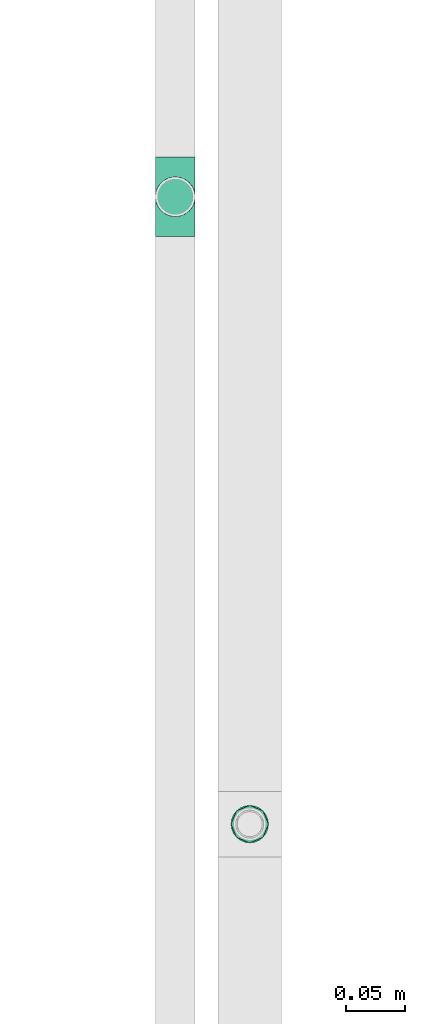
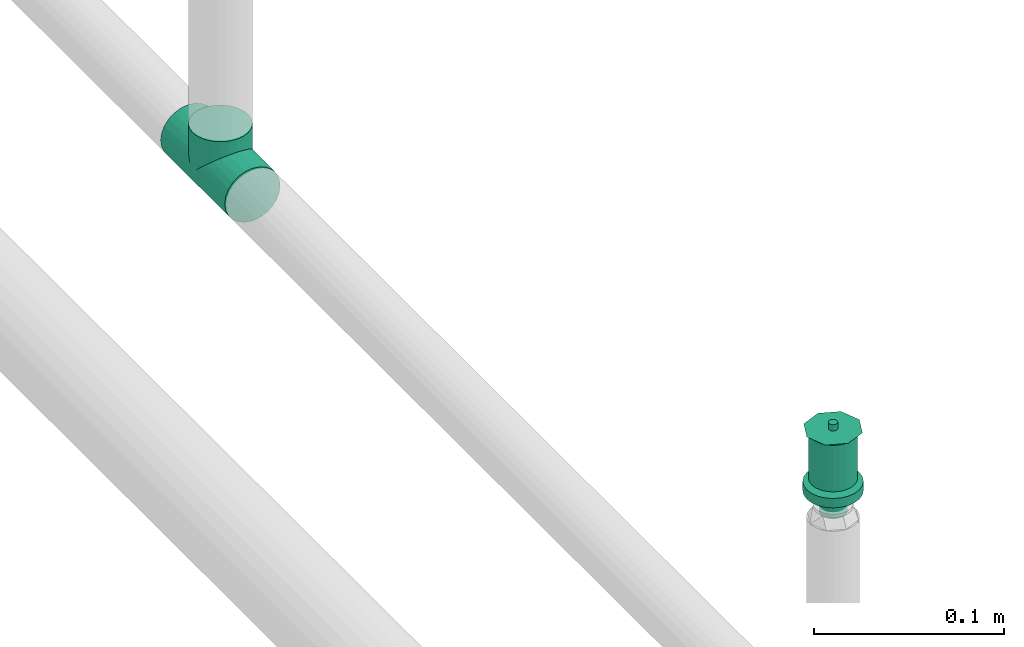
# One storey, part 55 of 95: 1 flow fitting, 1 flow terminal.
"""IFC2X3 building model written with IfcOpenShell, lengths in millimetres."""

from ifc_helpers import new_model, entity, si_unit, converted_unit, derived_unit, direction, frame, origin_with_axes, place, context, subcontext, project, spatial, open_shell, surface_model, source, transform, mapped, type_object, element, save


model = new_model("IFC2X3")

# Units and contexts
model_context = context("Model", 3, precision=0.01, world=frame((0.0, 4.29681676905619e-09, 0.0)), true_north=direction((4.01073788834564e-13, 1.0)))
plan_context = context("Plan", 3, precision=0.01, world=frame((0.0, 4.29681676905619e-09, 0.0)), true_north=direction((4.01073788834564e-13, 1.0)))
body_context = subcontext(model_context, "Body", "Model", "MODEL_VIEW")
ifc_project = project(units=[converted_unit("PLANEANGLEUNIT", "DEGREE", entity("IfcPositiveLengthMeasure", 0.0174532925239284), si_unit("PLANEANGLEUNIT", "RADIAN"), dimensions=[0, 0, 0, 0, 0, 0, 0]), si_unit("AREAUNIT", "SQUARE_METRE"), si_unit("LENGTHUNIT", "METRE", prefix="MILLI"), si_unit("MASSUNIT", "GRAM", prefix="KILO"), si_unit("POWERUNIT", "WATT"), si_unit("PRESSUREUNIT", "PASCAL"), si_unit("FORCEUNIT", "NEWTON", prefix="KILO"), si_unit("ELECTRICVOLTAGEUNIT", "VOLT"), si_unit("ELECTRICCURRENTUNIT", "AMPERE"), si_unit("THERMODYNAMICTEMPERATUREUNIT", "DEGREE_CELSIUS"), si_unit("TIMEUNIT", "SECOND"), si_unit("VOLUMEUNIT", "CUBIC_METRE"), derived_unit("LINEARVELOCITYUNIT", [(si_unit("LENGTHUNIT", "METRE"), 1), (si_unit("TIMEUNIT", "SECOND"), -1)]), derived_unit("VOLUMETRICFLOWRATEUNIT", [(si_unit("VOLUMEUNIT", "CUBIC_METRE"), 1), (si_unit("TIMEUNIT", "SECOND"), -1)]), derived_unit("THERMALTRANSMITTANCEUNIT", [(si_unit("POWERUNIT", "WATT"), 1), (si_unit("THERMODYNAMICTEMPERATUREUNIT", "KELVIN"), -1), (si_unit("AREAUNIT", "SQUARE_METRE"), -1)]), derived_unit("SOUNDPRESSUREUNIT", [(si_unit("PRESSUREUNIT", "PASCAL"), 1)])], contexts=[model_context, plan_context])

# Site, building, storey
site_placement = place(None, frame((0.0, -4.29681676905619e-09, 0.0), z_axis=(0.0, 0.0, 1.0), x_axis=(1.0, 0.0, 0.0)))
site = spatial("IfcSite", under=ifc_project, at=site_placement, CompositionType="ELEMENT")
building_placement = place(site_placement, frame((0.0, 4.29681676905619e-09, 0.0), z_axis=(0.0, 0.0, 1.0), x_axis=(1.0, 0.0, 0.0)))
building = spatial("IfcBuilding", under=site, at=building_placement, Name="mc-building", CompositionType="ELEMENT")
storey_placement = place(building_placement, frame((0.0, 0.0, 210900.0), z_axis=(0.0, 0.0, 1.0), x_axis=(1.0, 0.0, 0.0)))
storey = spatial("IfcBuildingStorey", under=building, at=storey_placement, Name="Nivå F", CompositionType="ELEMENT", Elevation=210900.0)

# Flow fitting
pipe_fitting_type = type_object("IfcPipeFittingType", Name="magi_pipe_fe_tee_centric_90_NOR", PredefinedType="JUNCTION")
shared_shape_1 = source(origin_with_axes(), body_context, "Body", "SurfaceModel", [
    surface_model("IfcShellBasedSurfaceModel", [(-33.8, 4.37404, -16.32415), (-33.8, 0.0, -16.9), (-33.8, 16.32415, -4.37404), (-33.8, 8.45, -14.63583), (-33.8, 11.9501, -11.9501), (-33.8, 14.63583, -8.45), (-33.8, -16.9, 0.0), (-33.8, -11.9501, -11.9501), (-33.8, -14.63583, -8.45), (-33.8, -8.45, -14.63583), (-33.8, -4.37404, -16.32415), (-33.8, -16.32415, -4.37404), (-33.8, 14.63583, 8.45), (-33.8, 16.32415, 4.37404), (-33.8, -8.45, 14.63583), (-33.8, 8.45, 14.63583), (-33.8, 11.9501, 11.9501), (-33.8, 4.37404, 16.32415), (-33.8, 0.0, 16.9), (-33.8, -11.9501, 11.9501), (-33.8, -14.63583, 8.45), (-33.8, -16.32415, 4.37404), (-33.8, -4.37404, 16.32415), (-33.8, 16.9, 0.0), (33.8, 4.37404, -16.32415), (33.8, -16.9, 0.0), (33.8, 0.0, -16.9), (33.8, 14.63583, -8.45), (33.8, 8.45, -14.63583), (33.8, 16.32415, -4.37404), (33.8, 11.9501, -11.9501), (33.8, -16.32415, 4.37404), (33.8, -8.45, -14.63583), (33.8, -4.37404, -16.32415), (33.8, -11.9501, -11.9501), (33.8, -14.63583, -8.45), (33.8, -16.32415, -4.37404), (33.8, 16.32415, 4.37404), (33.8, 8.45, 14.63583), (33.8, 14.63583, 8.45), (33.8, 11.9501, 11.9501), (33.8, -8.45, 14.63583), (33.8, 4.37404, 16.32415), (33.8, -14.63583, 8.45), (33.8, -11.9501, 11.9501), (33.8, 0.0, 16.9), (33.8, -4.37404, 16.32415), (33.8, 16.9, 0.0), (16.28698, -16.28698, 4.51047), (16.9, -16.9, 0.0), (14.62704, -14.62704, 8.4652), (9.47213, -9.47213, 13.99602), (12.26343, -12.26343, 11.62834), (-16.9, -16.9, 0.0), (-16.28698, -16.28698, 4.51047), (-14.62704, -14.62704, 8.4652), (-12.26343, -12.26343, 11.62834), (-9.47213, -9.47213, 13.99602), (-6.42894, -6.42894, 15.62942), (6.42894, -6.42894, 15.62942), (3.24522, -3.24522, 16.58549), (0.0, 0.0, 16.9), (-3.24522, -3.24522, 16.58549), (3.24522, -3.24522, -16.58549), (0.0, 0.0, -16.9), (-3.24522, -3.24522, -16.58549), (-6.42894, -6.42894, -15.62942), (6.42894, -6.42894, -15.62942), (9.47213, -9.47213, -13.99602), (12.26343, -12.26343, -11.62834), (14.62704, -14.62704, -8.4652), (16.28698, -16.28698, -4.51047), (-9.47213, -9.47213, -13.99602), (-12.26343, -12.26343, -11.62834), (-16.28698, -16.28698, -4.51047), (-14.62704, -14.62704, -8.4652), (4.37404, -25.35, -16.32415), (-16.9, -25.35, 0.0), (0.0, -25.35, -16.9), (14.63583, -25.35, -8.45), (8.45, -25.35, -14.63583), (16.32415, -25.35, -4.37404), (11.9501, -25.35, -11.9501), (-11.9501, -25.35, -11.9501), (-8.45, -25.35, -14.63583), (-4.37404, -25.35, -16.32415), (-14.63583, -25.35, -8.45), (-16.32415, -25.35, -4.37404), (16.9, -25.35, 0.0), (8.45, -25.35, 14.63583), (16.32415, -25.35, 4.37404), (14.63583, -25.35, 8.45), (-8.45, -25.35, 14.63583), (11.9501, -25.35, 11.9501), (4.37404, -25.35, 16.32415), (-16.32415, -25.35, 4.37404), (-11.9501, -25.35, 11.9501), (-14.63583, -25.35, 8.45), (0.0, -25.35, 16.9), (-4.37404, -25.35, 16.32415)], [open_shell([[[0, 1, 2]], [[3, 0, 4]], [[0, 2, 5]], [[4, 0, 5]], [[6, 2, 1]], [[7, 8, 9]], [[1, 10, 9]], [[11, 6, 8]], [[1, 9, 8]], [[1, 8, 6]], [[6, 12, 2]], [[12, 13, 2]], [[14, 12, 6]], [[12, 14, 15]], [[16, 12, 15]], [[17, 15, 18]], [[19, 14, 20]], [[21, 20, 14]], [[22, 18, 14]], [[14, 6, 21]], [[14, 18, 15]], [[23, 2, 13]], [[24, 25, 26]], [[27, 24, 28]], [[27, 29, 24]], [[27, 28, 30]], [[31, 25, 24]], [[26, 32, 33]], [[26, 34, 32]], [[35, 25, 36]], [[35, 34, 26]], [[25, 35, 26]], [[24, 29, 31]], [[29, 37, 38]], [[38, 37, 39]], [[38, 31, 29]], [[38, 39, 40]], [[41, 38, 42]], [[43, 41, 44]], [[41, 43, 31]], [[41, 45, 46]], [[41, 31, 38]], [[42, 45, 41]], [[29, 47, 37]], [[31, 43, 48]], [[25, 31, 49]], [[49, 31, 48]], [[43, 50, 48]], [[44, 41, 51]], [[50, 43, 52]], [[51, 52, 44]], [[52, 43, 44]], [[53, 54, 21]], [[53, 21, 6]], [[21, 54, 20]], [[54, 55, 20]], [[56, 57, 19]], [[19, 20, 56]], [[19, 57, 14]], [[56, 20, 55]], [[14, 57, 58]], [[51, 41, 59]], [[60, 45, 61]], [[59, 46, 60]], [[46, 59, 41]], [[60, 46, 45]], [[61, 45, 42]], [[39, 37, 13]], [[16, 38, 40]], [[12, 40, 39]], [[42, 38, 15]], [[23, 37, 47]], [[62, 61, 18]], [[62, 22, 58]], [[22, 62, 18]], [[58, 22, 14]], [[61, 17, 18]], [[42, 17, 61]], [[15, 17, 42]], [[15, 38, 16]], [[12, 16, 40]], [[13, 12, 39]], [[37, 23, 13]], [[5, 27, 30]], [[23, 47, 29]], [[30, 28, 3]], [[27, 2, 29]], [[26, 33, 63]], [[26, 64, 24]], [[64, 26, 63]], [[28, 24, 0]], [[64, 0, 24]], [[4, 30, 3]], [[2, 27, 5]], [[5, 30, 4]], [[2, 23, 29]], [[65, 66, 10]], [[1, 0, 64]], [[1, 65, 10]], [[66, 9, 10]], [[0, 3, 28]], [[1, 64, 65]], [[63, 33, 67]], [[32, 34, 68]], [[69, 68, 34]], [[35, 70, 69]], [[69, 34, 35]], [[32, 68, 67]], [[36, 25, 49]], [[36, 71, 35]], [[71, 36, 49]], [[35, 71, 70]], [[72, 9, 66]], [[72, 7, 9]], [[7, 72, 73]], [[7, 73, 8]], [[74, 53, 11]], [[75, 74, 8]], [[74, 11, 8]], [[11, 53, 6]], [[75, 8, 73]], [[32, 67, 33]], [[76, 77, 78]], [[79, 76, 80]], [[79, 81, 76]], [[79, 80, 82]], [[77, 76, 81]], [[78, 83, 84]], [[84, 85, 78]], [[86, 77, 87]], [[83, 78, 86]], [[77, 86, 78]], [[81, 88, 77]], [[89, 88, 90]], [[89, 90, 91]], [[92, 77, 89]], [[89, 91, 93]], [[92, 89, 94]], [[95, 96, 97]], [[96, 95, 92]], [[92, 98, 99]], [[95, 77, 92]], [[94, 98, 92]], [[89, 77, 88]], [[77, 95, 53]], [[54, 53, 95]], [[97, 96, 56]], [[96, 92, 57]], [[95, 97, 54]], [[58, 92, 99]], [[55, 54, 97]], [[56, 55, 97]], [[58, 57, 92]], [[98, 61, 62]], [[58, 99, 62]], [[56, 96, 57]], [[62, 99, 98]], [[94, 60, 98]], [[89, 59, 94]], [[91, 90, 48]], [[52, 93, 91]], [[93, 51, 89]], [[49, 90, 88]], [[59, 60, 94]], [[51, 59, 89]], [[49, 48, 90]], [[50, 52, 91]], [[48, 50, 91]], [[51, 93, 52]], [[98, 60, 61]], [[88, 81, 49]], [[71, 49, 81]], [[79, 82, 69]], [[82, 80, 68]], [[81, 79, 71]], [[67, 80, 76]], [[70, 71, 79]], [[69, 70, 79]], [[67, 68, 80]], [[78, 64, 63]], [[67, 76, 63]], [[69, 82, 68]], [[63, 76, 78]], [[85, 65, 78]], [[84, 66, 85]], [[86, 87, 74]], [[86, 73, 83]], [[72, 84, 83]], [[53, 87, 77]], [[66, 65, 85]], [[72, 66, 84]], [[53, 74, 87]], [[75, 73, 86]], [[74, 75, 86]], [[72, 83, 73]], [[78, 65, 64]]])]),
])
flow_fitting_placement = place(storey_placement, frame((535898.68266, 446191.7762, 4308.26618000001), z_axis=(1.0, 0.0, 0.0), x_axis=(0.0, -1.0, 0.0)))
element("IfcFlowFitting", 1, at=flow_fitting_placement, inside=storey, type_object=pipe_fitting_type, Name="magi_pipe_fe_tee_centric_90_NOR", context=body_context, shape_type="MappedRepresentation", body=[
    mapped(shared_shape_1, transform((0.0, 0.0, 0.0), scale=1.0)),
])

# Flow terminal
fire_suppression_terminal_type = type_object("IfcFireSuppressionTerminalType", Name="68DGR-STD-STÅENDE", PredefinedType="NOTDEFINED")
shared_shape_2 = source(origin_with_axes(), body_context, "Body", "SurfaceModel", [
    surface_model("IfcShellBasedSurfaceModel", [(3.36465, -12.55704, 51.0), (6.5, -11.25833, 51.0), (9.19239, -9.19239, 51.0), (12.55704, -3.36465, 51.0), (-11.25833, -6.5, 51.0), (11.25833, -6.5, 51.0), (-13.0, 0.0, 51.0), (0.0, -13.0, 51.0), (-6.5, -11.25833, 51.0), (-3.36465, -12.55704, 51.0), (-9.19239, -9.19239, 51.0), (-12.55704, -3.36465, 51.0), (13.0, 0.0, 51.0), (12.55704, 3.36465, 51.0), (11.25833, 6.5, 51.0), (9.19239, 9.19239, 51.0), (6.5, 11.25833, 51.0), (3.36465, 12.55704, 51.0), (0.0, 13.0, 51.0), (-3.36465, 12.55704, 51.0), (-12.55704, 3.36465, 51.0), (-9.19239, 9.19239, 51.0), (-11.25833, 6.5, 51.0), (-6.5, 11.25833, 51.0), (0.0, 13.0, 21.14766), (3.36465, 12.55704, 21.14766), (6.5, 11.25833, 21.14766), (-3.36465, 12.55704, 21.14766), (9.19239, 9.19239, 21.14766), (11.25833, 6.5, 21.14766), (12.55704, 3.36465, 21.14766), (-12.55704, 3.36465, 21.14766), (-11.25833, -6.5, 21.14766), (-9.19239, 9.19239, 21.14766), (-6.5, 11.25833, 21.14766), (-11.25833, 6.5, 21.14766), (-13.0, 0.0, 21.14766), (12.55704, -3.36465, 21.14766), (9.19239, -9.19239, 21.14766), (11.25833, -6.5, 21.14766), (6.5, -11.25833, 21.14766), (3.36465, -12.55704, 21.14766), (-6.5, -11.25833, 21.14766), (-9.19239, -9.19239, 21.14766), (-12.55704, -3.36465, 21.14766), (0.0, -13.0, 21.14766), (-3.36465, -12.55704, 21.14766), (13.0, 0.0, 21.14766), (7.24444, -1.94114, 0.1), (1.94114, -7.24444, 0.1), (3.75, -6.49519, 0.1), (5.3033, -5.3033, 0.1), (-5.3033, -5.3033, 0.1), (6.49519, -3.75, 0.1), (5.3033, 5.3033, 0.1), (0.0, -7.5, 0.1), (-3.75, -6.49519, 0.1), (-1.94114, -7.24444, 0.1), (-7.24444, -1.94114, 0.1), (-6.49519, -3.75, 0.1), (-7.24444, 1.94114, 0.1), (7.5, 0.0, 0.1), (6.49519, 3.75, 0.1), (-6.49519, 3.75, 0.1), (1.94114, 7.24444, 0.1), (0.0, 7.5, 0.1), (3.75, 6.49519, 0.1), (-7.5, 0.0, 0.1), (-5.3033, 5.3033, 0.1), (-1.94114, 7.24444, 0.1), (-3.75, 6.49519, 0.1), (7.24444, 1.94114, 0.1), (1.94114, 7.24444, -0.1), (-6.49519, 3.75, -0.1), (0.0, 7.5, -0.1), (5.3033, 5.3033, -0.1), (3.75, 6.49519, -0.1), (6.49519, 3.75, -0.1), (7.24444, 1.94114, -0.1), (-1.94114, 7.24444, -0.1), (-5.3033, 5.3033, -0.1), (-3.75, 6.49519, -0.1), (-7.24444, 1.94114, -0.1), (-7.24444, -1.94114, -0.1), (-7.5, 0.0, -0.1), (7.5, 0.0, -0.1), (7.24444, -1.94114, -0.1), (-5.3033, -5.3033, -0.1), (1.94114, -7.24444, -0.1), (6.49519, -3.75, -0.1), (5.3033, -5.3033, -0.1), (3.75, -6.49519, -0.1), (-6.49519, -3.75, -0.1), (-3.75, -6.49519, -0.1), (0.0, -7.5, -0.1), (-1.94114, -7.24444, -0.1), (0.0, -2.5, 51.0), (-2.5, 0.0, 51.0), (0.0, 2.5, 51.0), (2.5, 0.0, 51.0), (0.0, -16.0, 53.0), (11.31371, -11.31371, 53.0), (-11.31371, -11.31371, 53.0), (-16.0, 0.0, 53.0), (16.0, 0.0, 53.0), (11.31371, 11.31371, 53.0), (0.0, 16.0, 53.0), (-11.31371, 11.31371, 53.0), (1.25, -2.16506, 57.0), (0.0, -2.5, 57.0), (0.64705, -2.41481, 57.0), (2.41481, -0.64705, 57.0), (1.76777, -1.76777, 57.0), (-2.41481, -0.64705, 57.0), (-2.5, 0.0, 57.0), (2.16506, -1.25, 57.0), (-1.25, -2.16506, 57.0), (-0.64705, -2.41481, 57.0), (-1.76777, -1.76777, 57.0), (-2.16506, -1.25, 57.0), (2.5, 0.0, 57.0), (2.41481, 0.64705, 57.0), (2.16506, 1.25, 57.0), (1.76777, 1.76777, 57.0), (0.64705, 2.41481, 57.0), (1.25, 2.16506, 57.0), (-1.76777, 1.76777, 57.0), (0.0, 2.5, 57.0), (-2.16506, 1.25, 57.0), (-2.41481, 0.64705, 57.0), (-0.64705, 2.41481, 57.0), (-1.25, 2.16506, 57.0), (1.25, 2.16506, 51.0), (1.76777, 1.76777, 51.0), (1.15, 1.99186, 51.0), (0.59528, 2.22163, 51.0), (0.64705, 2.41481, 51.0), (0.0, 2.3, 51.0), (1.62635, 1.62635, 51.0), (2.41481, 0.64705, 51.0), (2.3, 0.0, 51.0), (2.22163, 0.59528, 51.0), (2.16506, 1.25, 51.0), (1.99186, 1.15, 51.0), (-0.59528, 2.22163, 51.0), (-0.64705, 2.41481, 51.0), (-1.15, 1.99186, 51.0), (-1.76777, 1.76777, 51.0), (-1.25, 2.16506, 51.0), (-1.62635, 1.62635, 51.0), (-1.99186, 1.15, 51.0), (-2.16506, 1.25, 51.0), (-2.22163, 0.59528, 51.0), (-2.41481, 0.64705, 51.0), (-2.3, 0.0, 51.0), (2.41481, -0.64705, 51.0), (2.22163, -0.59528, 51.0), (1.99186, -1.15, 51.0), (2.16506, -1.25, 51.0), (1.62635, -1.62635, 51.0), (1.76777, -1.76777, 51.0), (1.25, -2.16506, 51.0), (1.15, -1.99186, 51.0), (0.59528, -2.22163, 51.0), (0.64705, -2.41481, 51.0), (0.0, -2.3, 51.0), (-2.16506, -1.25, 51.0), (-1.99186, -1.15, 51.0), (-1.76777, -1.76777, 51.0), (-1.62635, -1.62635, 51.0), (-2.41481, -0.64705, 51.0), (-2.22163, -0.59528, 51.0), (-0.59528, -2.22163, 51.0), (-0.64705, -2.41481, 51.0), (-1.15, -1.99186, 51.0), (-1.25, -2.16506, 51.0), (1.62635, -1.62635, 56.8), (1.15, -1.99186, 56.8), (0.59528, -2.22163, 56.8), (0.0, -2.3, 56.8), (2.22163, 0.59528, 56.8), (1.99186, -1.15, 56.8), (2.22163, -0.59528, 56.8), (-0.59528, -2.22163, 56.8), (-1.15, -1.99186, 56.8), (-1.62635, -1.62635, 56.8), (-1.99186, -1.15, 56.8), (-2.22163, -0.59528, 56.8), (-1.99186, 1.15, 56.8), (2.3, 0.0, 56.8), (1.62635, 1.62635, 56.8), (1.99186, 1.15, 56.8), (1.15, 1.99186, 56.8), (0.0, 2.3, 56.8), (0.59528, 2.22163, 56.8), (-2.22163, 0.59528, 56.8), (-2.3, 0.0, 56.8), (-1.15, 1.99186, 56.8), (-0.59528, 2.22163, 56.8), (-1.62635, 1.62635, 56.8), (4.1411, -15.45481, 19.0), (8.0, -13.85641, 19.0), (11.31371, -11.31371, 19.0), (-8.0, -13.85641, 19.0), (15.45481, -4.1411, 19.0), (16.0, 0.0, 19.0), (13.85641, -8.0, 19.0), (0.0, -16.0, 19.0), (-4.1411, -15.45481, 19.0), (-13.85641, -8.0, 19.0), (-11.31371, -11.31371, 19.0), (-15.45481, -4.1411, 19.0), (15.45481, 4.1411, 19.0), (13.85641, 8.0, 19.0), (11.31371, 11.31371, 19.0), (-4.1411, 15.45481, 19.0), (8.0, 13.85641, 19.0), (4.1411, 15.45481, 19.0), (0.0, 16.0, 19.0), (-13.85641, 8.0, 19.0), (-15.45481, 4.1411, 19.0), (-16.0, 0.0, 19.0), (-11.31371, 11.31371, 19.0), (-8.0, 13.85641, 19.0), (0.0, 16.0, 13.0), (4.1411, 15.45481, 13.0), (8.0, 13.85641, 13.0), (-4.1411, 15.45481, 13.0), (11.31371, 11.31371, 13.0), (13.85641, 8.0, 13.0), (15.45481, 4.1411, 13.0), (-15.45481, -4.1411, 13.0), (-11.31371, 11.31371, 13.0), (-8.0, 13.85641, 13.0), (-13.85641, 8.0, 13.0), (-15.45481, 4.1411, 13.0), (-16.0, 0.0, 13.0), (4.1411, -15.45481, 13.0), (16.0, 0.0, 13.0), (15.45481, -4.1411, 13.0), (13.85641, -8.0, 13.0), (11.31371, -11.31371, 13.0), (8.0, -13.85641, 13.0), (-8.0, -13.85641, 13.0), (-13.85641, -8.0, 13.0), (-11.31371, -11.31371, 13.0), (0.0, -16.0, 13.0), (-4.1411, -15.45481, 13.0), (7.24444, -1.94114, 13.0), (1.94114, -7.24444, 13.0), (3.75, -6.49519, 13.0), (5.3033, -5.3033, 13.0), (-5.3033, -5.3033, 13.0), (6.49519, -3.75, 13.0), (5.3033, 5.3033, 13.0), (0.0, -7.5, 13.0), (-3.75, -6.49519, 13.0), (-1.94114, -7.24444, 13.0), (-7.24444, -1.94114, 13.0), (-6.49519, -3.75, 13.0), (-7.24444, 1.94114, 13.0), (7.5, 0.0, 13.0), (6.49519, 3.75, 13.0), (-6.49519, 3.75, 13.0), (1.94114, 7.24444, 13.0), (0.0, 7.5, 13.0), (3.75, 6.49519, 13.0), (-7.5, 0.0, 13.0), (-5.3033, 5.3033, 13.0), (-1.94114, 7.24444, 13.0), (-3.75, 6.49519, 13.0), (7.24444, 1.94114, 13.0), (3.75, 6.49519, 0.0), (5.3033, 5.3033, 0.0), (3.65, 6.32199, 0.0), (1.88938, 7.05126, 0.0), (0.0, 7.3, 0.0), (1.94114, 7.24444, 0.0), (0.0, 7.5, 0.0), (5.16188, 5.16188, 0.0), (7.24444, 1.94114, 0.0), (7.3, 0.0, 0.0), (7.05126, 1.88938, 0.0), (7.5, 0.0, 0.0), (6.49519, 3.75, 0.0), (6.32199, 3.65, 0.0), (-1.88938, 7.05126, 0.0), (-1.94114, 7.24444, 0.0), (-3.65, 6.32199, 0.0), (-5.3033, 5.3033, 0.0), (-3.75, 6.49519, 0.0), (-5.16188, 5.16188, 0.0), (-6.32199, 3.65, 0.0), (-6.49519, 3.75, 0.0), (-7.05126, 1.88938, 0.0), (-7.24444, 1.94114, 0.0), (-7.3, 0.0, 0.0), (-7.5, 0.0, 0.0), (7.24444, -1.94114, 0.0), (7.05126, -1.88938, 0.0), (6.32199, -3.65, 0.0), (6.49519, -3.75, 0.0), (5.16188, -5.16188, 0.0), (5.3033, -5.3033, 0.0), (3.75, -6.49519, 0.0), (3.65, -6.32199, 0.0), (1.88938, -7.05126, 0.0), (1.94114, -7.24444, 0.0), (0.0, -7.3, 0.0), (0.0, -7.5, 0.0), (-6.49519, -3.75, 0.0), (-6.32199, -3.65, 0.0), (-5.3033, -5.3033, 0.0), (-5.16188, -5.16188, 0.0), (-7.24444, -1.94114, 0.0), (-7.05126, -1.88938, 0.0), (-1.88938, -7.05126, 0.0), (-1.94114, -7.24444, 0.0), (-3.65, -6.32199, 0.0), (-3.75, -6.49519, 0.0), (1.88938, -7.05126, 12.8), (0.0, -7.3, 12.8), (3.65, -6.32199, 12.8), (5.16188, -5.16188, 12.8), (6.32199, -3.65, 12.8), (7.05126, 1.88938, 12.8), (7.05126, -1.88938, 12.8), (-5.16188, -5.16188, 12.8), (-1.88938, -7.05126, 12.8), (-3.65, -6.32199, 12.8), (-6.32199, -3.65, 12.8), (-7.05126, -1.88938, 12.8), (0.0, 7.3, 12.8), (7.3, 0.0, 12.8), (6.32199, 3.65, 12.8), (5.16188, 5.16188, 12.8), (3.65, 6.32199, 12.8), (1.88938, 7.05126, 12.8), (-6.32199, 3.65, 12.8), (-7.05126, 1.88938, 12.8), (-7.3, 0.0, 12.8), (-3.65, 6.32199, 12.8), (-1.88938, 7.05126, 12.8), (-5.16188, 5.16188, 12.8)], [open_shell([[[0, 1, 2]], [[0, 2, 3]], [[0, 3, 4]], [[3, 2, 5]], [[6, 4, 3]], [[7, 8, 9]], [[7, 0, 8]], [[8, 4, 10]], [[0, 4, 8]], [[4, 6, 11]], [[6, 3, 12]], [[13, 14, 15]], [[6, 13, 15]], [[16, 17, 18]], [[15, 16, 19]], [[18, 19, 16]], [[20, 21, 22]], [[20, 6, 15]], [[21, 19, 23]], [[19, 21, 20]], [[15, 19, 20]], [[13, 6, 12]], [[24, 25, 26]], [[27, 24, 26]], [[28, 29, 30]], [[26, 28, 31]], [[28, 32, 31]], [[27, 33, 34]], [[33, 27, 31]], [[33, 31, 35]], [[27, 26, 31]], [[31, 32, 36]], [[32, 28, 30]], [[32, 30, 37]], [[38, 37, 39]], [[38, 40, 41]], [[38, 41, 37]], [[32, 37, 41]], [[32, 42, 43]], [[44, 36, 32]], [[42, 45, 46]], [[42, 32, 41]], [[45, 42, 41]], [[30, 47, 37]], [[4, 32, 43]], [[8, 42, 46]], [[43, 42, 10]], [[9, 46, 45]], [[36, 11, 6]], [[11, 36, 44]], [[11, 44, 4]], [[44, 32, 4]], [[43, 10, 4]], [[8, 10, 42]], [[46, 9, 8]], [[45, 7, 9]], [[0, 41, 40]], [[38, 1, 40]], [[5, 39, 37]], [[38, 39, 2]], [[3, 37, 47]], [[41, 0, 7]], [[40, 1, 0]], [[38, 2, 1]], [[39, 5, 2]], [[3, 5, 37]], [[47, 12, 3]], [[41, 7, 45]], [[30, 13, 47]], [[29, 14, 30]], [[25, 24, 17]], [[15, 29, 28]], [[30, 14, 13]], [[13, 12, 47]], [[16, 26, 17]], [[16, 15, 28]], [[26, 25, 17]], [[15, 14, 29]], [[28, 26, 16]], [[24, 18, 17]], [[19, 27, 34]], [[33, 23, 34]], [[22, 35, 31]], [[33, 35, 21]], [[20, 31, 36]], [[27, 19, 18]], [[34, 23, 19]], [[33, 21, 23]], [[35, 22, 21]], [[20, 22, 31]], [[36, 6, 20]], [[27, 18, 24]], [[48, 49, 50]], [[48, 50, 51]], [[49, 48, 52]], [[48, 51, 53]], [[54, 52, 48]], [[55, 56, 57]], [[56, 55, 52]], [[52, 58, 59]], [[52, 55, 49]], [[52, 60, 58]], [[54, 48, 61]], [[62, 54, 61]], [[54, 63, 52]], [[64, 65, 54]], [[64, 54, 66]], [[63, 54, 65]], [[63, 60, 52]], [[67, 58, 60]], [[68, 69, 70]], [[69, 68, 63]], [[69, 63, 65]], [[71, 62, 61]], [[72, 73, 74]], [[75, 72, 76]], [[75, 77, 78]], [[72, 75, 73]], [[78, 73, 75]], [[79, 80, 81]], [[80, 79, 73]], [[74, 73, 79]], [[78, 82, 73]], [[82, 83, 84]], [[82, 78, 85]], [[86, 87, 85]], [[88, 86, 89]], [[90, 91, 88]], [[90, 88, 89]], [[87, 86, 88]], [[83, 87, 92]], [[83, 85, 87]], [[93, 94, 95]], [[94, 93, 87]], [[88, 94, 87]], [[85, 83, 82]], [[83, 58, 84]], [[92, 59, 83]], [[56, 87, 93]], [[92, 87, 52]], [[57, 93, 95]], [[83, 59, 58]], [[58, 67, 84]], [[57, 56, 93]], [[52, 87, 56]], [[52, 59, 92]], [[55, 57, 95]], [[95, 94, 55]], [[88, 49, 94]], [[91, 50, 88]], [[53, 90, 89]], [[91, 90, 51]], [[48, 89, 86]], [[91, 51, 50]], [[50, 49, 88]], [[61, 48, 86]], [[53, 89, 48]], [[53, 51, 90]], [[85, 61, 86]], [[94, 49, 55]], [[78, 71, 85]], [[77, 62, 78]], [[66, 75, 76]], [[77, 75, 54]], [[64, 76, 72]], [[78, 62, 71]], [[71, 61, 85]], [[64, 66, 76]], [[54, 75, 66]], [[54, 62, 77]], [[65, 64, 72]], [[72, 74, 65]], [[79, 69, 74]], [[81, 70, 79]], [[63, 80, 73]], [[81, 80, 68]], [[60, 73, 82]], [[81, 68, 70]], [[70, 69, 79]], [[67, 60, 82]], [[63, 73, 60]], [[63, 68, 80]], [[84, 67, 82]], [[74, 69, 65]], [[96, 97, 98]], [[98, 99, 96]], [[100, 101, 102]], [[103, 102, 101]], [[101, 104, 103]], [[104, 105, 106]], [[107, 103, 106]], [[106, 103, 104]], [[99, 98, 105]], [[105, 104, 99]], [[98, 106, 105]], [[98, 107, 106]], [[107, 98, 97]], [[103, 107, 97]], [[97, 96, 102]], [[102, 103, 97]], [[96, 100, 102]], [[96, 101, 100]], [[101, 96, 99]], [[104, 101, 99]], [[108, 109, 110]], [[111, 108, 112]], [[113, 108, 114]], [[111, 112, 115]], [[108, 111, 114]], [[109, 116, 117]], [[116, 109, 118]], [[118, 113, 119]], [[118, 109, 108]], [[108, 113, 118]], [[111, 120, 114]], [[121, 122, 123]], [[114, 121, 123]], [[114, 123, 124]], [[124, 123, 125]], [[126, 124, 127]], [[124, 128, 129]], [[129, 114, 124]], [[126, 130, 131]], [[128, 124, 126]], [[130, 126, 127]], [[121, 114, 120]], [[132, 133, 134]], [[132, 134, 135]], [[136, 135, 137]], [[135, 136, 132]], [[136, 137, 98]], [[134, 133, 138]], [[139, 140, 141]], [[140, 139, 99]], [[139, 141, 142]], [[138, 142, 143]], [[142, 138, 133]], [[143, 142, 141]], [[98, 144, 145]], [[98, 137, 144]], [[145, 144, 146]], [[147, 148, 149]], [[146, 148, 145]], [[149, 148, 146]], [[150, 151, 147]], [[151, 150, 152]], [[150, 147, 149]], [[153, 152, 154]], [[152, 153, 151]], [[153, 154, 97]], [[99, 155, 156]], [[156, 155, 157]], [[157, 158, 159]], [[158, 157, 155]], [[159, 158, 160]], [[160, 161, 162]], [[162, 161, 163]], [[163, 164, 165]], [[164, 163, 161]], [[165, 164, 96]], [[162, 159, 160]], [[166, 167, 168]], [[168, 167, 169]], [[167, 166, 170]], [[97, 171, 170]], [[170, 171, 167]], [[97, 154, 171]], [[172, 96, 173]], [[172, 173, 174]], [[169, 175, 168]], [[175, 169, 174]], [[175, 174, 173]], [[165, 96, 172]], [[156, 140, 99]], [[170, 113, 97]], [[166, 119, 170]], [[116, 168, 175]], [[166, 168, 118]], [[117, 175, 173]], [[170, 119, 113]], [[113, 114, 97]], [[117, 116, 175]], [[118, 168, 116]], [[118, 119, 166]], [[109, 117, 173]], [[173, 96, 109]], [[164, 110, 96]], [[161, 108, 164]], [[115, 160, 158]], [[161, 160, 112]], [[111, 158, 155]], [[161, 112, 108]], [[108, 110, 164]], [[120, 111, 155]], [[115, 158, 111]], [[115, 112, 160]], [[99, 120, 155]], [[96, 110, 109]], [[139, 121, 99]], [[142, 122, 139]], [[125, 133, 132]], [[142, 133, 123]], [[124, 132, 136]], [[139, 122, 121]], [[121, 120, 99]], [[124, 125, 132]], [[123, 133, 125]], [[123, 122, 142]], [[127, 124, 136]], [[136, 98, 127]], [[145, 130, 98]], [[148, 131, 145]], [[128, 147, 151]], [[148, 147, 126]], [[129, 151, 153]], [[148, 126, 131]], [[131, 130, 145]], [[114, 129, 153]], [[128, 151, 129]], [[128, 126, 147]], [[97, 114, 153]], [[98, 130, 127]], [[176, 177, 178]], [[176, 178, 179]], [[180, 176, 179]], [[181, 176, 182]], [[180, 182, 176]], [[183, 184, 179]], [[185, 179, 184]], [[186, 187, 185]], [[185, 187, 188]], [[179, 185, 188]], [[189, 182, 180]], [[190, 191, 180]], [[192, 190, 180]], [[193, 194, 192]], [[180, 193, 192]], [[188, 193, 180]], [[195, 188, 196]], [[196, 188, 187]], [[197, 198, 199]], [[188, 199, 198]], [[188, 198, 193]], [[180, 179, 188]], [[154, 187, 171]], [[171, 186, 167]], [[174, 169, 184]], [[185, 169, 167]], [[172, 174, 183]], [[187, 186, 171]], [[154, 196, 187]], [[174, 184, 183]], [[184, 169, 185]], [[167, 186, 185]], [[172, 183, 179]], [[179, 165, 172]], [[165, 178, 163]], [[163, 177, 162]], [[157, 159, 181]], [[176, 159, 162]], [[156, 157, 182]], [[177, 176, 162]], [[163, 178, 177]], [[156, 182, 189]], [[182, 157, 181]], [[159, 176, 181]], [[156, 189, 140]], [[179, 178, 165]], [[140, 180, 141]], [[141, 191, 143]], [[134, 138, 192]], [[190, 138, 143]], [[135, 134, 194]], [[180, 191, 141]], [[140, 189, 180]], [[134, 192, 194]], [[192, 138, 190]], [[143, 191, 190]], [[135, 194, 193]], [[193, 137, 135]], [[137, 198, 144]], [[144, 197, 146]], [[150, 149, 188]], [[199, 149, 146]], [[152, 150, 195]], [[197, 199, 146]], [[144, 198, 197]], [[152, 195, 196]], [[195, 150, 188]], [[149, 199, 188]], [[152, 196, 154]], [[193, 198, 137]], [[200, 201, 202]], [[203, 200, 202]], [[204, 205, 202]], [[204, 202, 206]], [[203, 202, 205]], [[207, 203, 208]], [[207, 200, 203]], [[203, 209, 210]], [[209, 203, 211]], [[205, 211, 203]], [[205, 212, 211]], [[212, 213, 214]], [[215, 212, 214]], [[216, 217, 218]], [[214, 216, 215]], [[218, 215, 216]], [[211, 219, 220]], [[221, 211, 220]], [[222, 215, 223]], [[215, 222, 219]], [[219, 211, 215]], [[211, 212, 215]], [[224, 225, 226]], [[227, 224, 226]], [[228, 229, 230]], [[227, 226, 228]], [[227, 228, 231]], [[227, 232, 233]], [[232, 227, 234]], [[234, 231, 235]], [[231, 234, 227]], [[235, 231, 236]], [[228, 230, 231]], [[237, 238, 239]], [[237, 239, 240]], [[241, 242, 237]], [[241, 237, 240]], [[238, 237, 243]], [[244, 243, 245]], [[243, 244, 231]], [[243, 246, 247]], [[243, 231, 238]], [[237, 246, 243]], [[238, 231, 230]], [[231, 211, 236]], [[244, 209, 231]], [[203, 245, 243]], [[244, 245, 210]], [[208, 243, 247]], [[231, 209, 211]], [[211, 221, 236]], [[208, 203, 243]], [[210, 245, 203]], [[210, 209, 244]], [[207, 208, 247]], [[247, 246, 207]], [[237, 200, 246]], [[242, 201, 237]], [[206, 241, 240]], [[242, 241, 202]], [[204, 240, 239]], [[242, 202, 201]], [[201, 200, 237]], [[205, 204, 239]], [[206, 240, 204]], [[206, 202, 241]], [[238, 205, 239]], [[246, 200, 207]], [[230, 212, 238]], [[229, 213, 230]], [[216, 228, 226]], [[229, 228, 214]], [[217, 226, 225]], [[230, 213, 212]], [[212, 205, 238]], [[217, 216, 226]], [[214, 228, 216]], [[214, 213, 229]], [[218, 217, 225]], [[225, 224, 218]], [[227, 215, 224]], [[233, 223, 227]], [[219, 232, 234]], [[233, 232, 222]], [[220, 234, 235]], [[233, 222, 223]], [[223, 215, 227]], [[221, 220, 235]], [[219, 234, 220]], [[219, 222, 232]], [[236, 221, 235]], [[224, 215, 218]], [[248, 249, 250]], [[248, 250, 251]], [[249, 248, 252]], [[248, 251, 253]], [[254, 252, 248]], [[255, 256, 257]], [[256, 255, 252]], [[252, 258, 259]], [[252, 255, 249]], [[252, 260, 258]], [[254, 248, 261]], [[262, 254, 261]], [[254, 263, 252]], [[264, 265, 254]], [[264, 254, 266]], [[263, 254, 265]], [[263, 260, 252]], [[267, 258, 260]], [[268, 269, 270]], [[269, 268, 263]], [[269, 263, 265]], [[271, 262, 261]], [[272, 273, 274]], [[272, 274, 275]], [[276, 277, 275]], [[277, 276, 278]], [[275, 277, 272]], [[274, 273, 279]], [[280, 281, 282]], [[281, 280, 283]], [[280, 282, 284]], [[279, 284, 285]], [[284, 279, 273]], [[285, 284, 282]], [[278, 286, 287]], [[287, 286, 288]], [[289, 290, 291]], [[288, 290, 287]], [[288, 291, 290]], [[278, 276, 286]], [[292, 293, 289]], [[293, 292, 294]], [[292, 289, 291]], [[295, 294, 296]], [[294, 295, 293]], [[295, 296, 297]], [[283, 298, 299]], [[299, 298, 300]], [[300, 301, 302]], [[301, 300, 298]], [[302, 301, 303]], [[303, 304, 305]], [[305, 304, 306]], [[306, 307, 308]], [[307, 306, 304]], [[308, 307, 309]], [[305, 302, 303]], [[310, 311, 312]], [[312, 311, 313]], [[311, 310, 314]], [[297, 315, 314]], [[314, 315, 311]], [[297, 296, 315]], [[316, 309, 317]], [[316, 317, 318]], [[313, 319, 312]], [[313, 318, 319]], [[319, 318, 317]], [[308, 309, 316]], [[299, 281, 283]], [[314, 258, 297]], [[310, 259, 314]], [[256, 312, 319]], [[310, 312, 252]], [[257, 319, 317]], [[314, 259, 258]], [[258, 267, 297]], [[257, 256, 319]], [[252, 312, 256]], [[252, 259, 310]], [[255, 257, 317]], [[317, 309, 255]], [[307, 249, 309]], [[304, 250, 307]], [[253, 303, 301]], [[304, 303, 251]], [[248, 301, 298]], [[304, 251, 250]], [[250, 249, 307]], [[261, 248, 298]], [[253, 301, 248]], [[253, 251, 303]], [[283, 261, 298]], [[309, 249, 255]], [[280, 271, 283]], [[284, 262, 280]], [[266, 273, 272]], [[284, 273, 254]], [[264, 272, 277]], [[280, 262, 271]], [[271, 261, 283]], [[264, 266, 272]], [[254, 273, 266]], [[254, 262, 284]], [[265, 264, 277]], [[277, 278, 265]], [[287, 269, 278]], [[290, 270, 287]], [[263, 289, 293]], [[290, 289, 268]], [[260, 293, 295]], [[290, 268, 270]], [[270, 269, 287]], [[267, 260, 295]], [[263, 293, 260]], [[263, 268, 289]], [[297, 267, 295]], [[278, 269, 265]], [[320, 321, 322]], [[323, 322, 324]], [[325, 326, 322]], [[324, 322, 326]], [[322, 327, 325]], [[328, 329, 321]], [[327, 321, 329]], [[330, 331, 327]], [[322, 321, 327]], [[331, 332, 327]], [[326, 325, 333]], [[334, 325, 332]], [[335, 334, 336]], [[332, 337, 336]], [[334, 332, 336]], [[331, 338, 332]], [[339, 338, 340]], [[340, 338, 331]], [[341, 342, 343]], [[332, 338, 343]], [[332, 343, 342]], [[332, 325, 327]], [[296, 331, 315]], [[315, 330, 311]], [[318, 313, 329]], [[327, 313, 311]], [[316, 318, 328]], [[331, 330, 315]], [[296, 340, 331]], [[318, 329, 328]], [[329, 313, 327]], [[311, 330, 327]], [[316, 328, 321]], [[321, 308, 316]], [[308, 320, 306]], [[306, 322, 305]], [[300, 302, 324]], [[323, 302, 305]], [[299, 300, 326]], [[322, 323, 305]], [[306, 320, 322]], [[299, 326, 333]], [[326, 300, 324]], [[302, 323, 324]], [[299, 333, 281]], [[321, 320, 308]], [[281, 325, 282]], [[282, 334, 285]], [[274, 279, 336]], [[335, 279, 285]], [[275, 274, 337]], [[325, 334, 282]], [[281, 333, 325]], [[274, 336, 337]], [[336, 279, 335]], [[285, 334, 335]], [[275, 337, 332]], [[332, 276, 275]], [[276, 342, 286]], [[286, 341, 288]], [[292, 291, 338]], [[343, 291, 288]], [[294, 292, 339]], [[341, 343, 288]], [[286, 342, 341]], [[294, 339, 340]], [[339, 292, 338]], [[291, 343, 338]], [[294, 340, 296]], [[332, 342, 276]]])]),
])
flow_terminal_placement = place(storey_placement, frame((535962.24677, 445656.17841, 4386.99611000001), z_axis=(0.0, 0.0, 1.0), x_axis=(1.0, 0.0, 0.0)))
element("IfcFlowTerminal", 2, at=flow_terminal_placement, inside=storey, type_object=fire_suppression_terminal_type, Name="68DGR-STD-STÅENDE", context=body_context, shape_type="MappedRepresentation", body=[
    mapped(shared_shape_2, transform((0.0, 0.0, 0.0), scale=1.0)),
])

save(model, "model.ifc")
